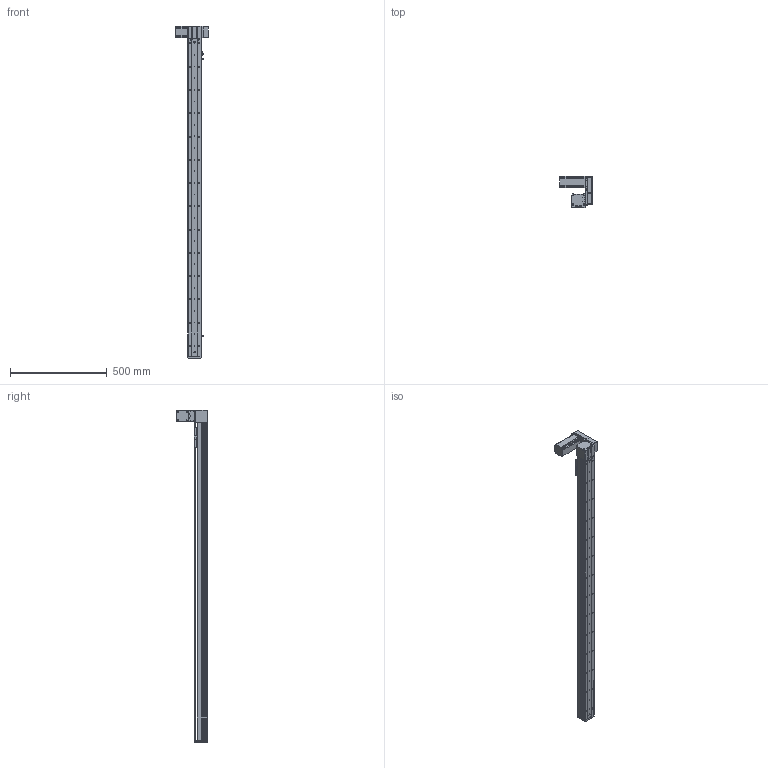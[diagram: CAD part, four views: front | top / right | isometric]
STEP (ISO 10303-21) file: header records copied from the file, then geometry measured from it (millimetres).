
FILE_DESCRIPTION (( 'STEP AP214' ), '1' );
FILE_NAME ('KSD68BS-S1450-MLU-CM.STEP', '2019-11-06T07:02:37', ( '微软用户' ), ( '微软中国' ), 'SwSTEP 2.0', 'SolidWorks 2014', '' );
FILE_SCHEMA (( 'AUTOMOTIVE_DESIGN' ));
Length unit declared in the file: millimetre
Products named in the file (11): 悵誘欶奻狟殏; 68宽马达安装板连板上折同步带; 68宽单导轨半封闭同步带主动轮座左; 68单导轨同步带半封闭端板; KSD68BS 1450俴最裔啣圉猾敕; 覜茼え68遵圉猾敕; KSD68BS半封闭同步带传动导轨座; U倰嫖萇EEㄜSX672; 台达ECMA－C20604AS伺服电机（400W); KSD68BS 1450俴最菁啣圉猾敕; KSD68BS-S1450-MLU-CM
Assembly tree (12 placements, depth 2):
  KSD68BS-S1450-MLU-CM
    KSD68BS 1450俴最菁啣圉猾敕
    台达ECMA－C20604AS伺服电机（400W)
    U倰嫖萇EEㄜSX672  x3
    KSD68BS半封闭同步带传动导轨座
    覜茼え68遵圉猾敕
    KSD68BS 1450俴最裔啣圉猾敕
    68单导轨同步带半封闭端板
    68宽单导轨半封闭同步带主动轮座左
    68宽马达安装板连板上折同步带
    悵誘欶奻狟殏
Bounding box: 167.2 x 159.5 x 1712 mm (x, y, z)
Volume: 2938450.6 mm3; surface area: 1079486.6 mm2
Topology: 13 solids, 13 shells, 1542 faces, 4498 edges, 2930 vertices
Faces by surface type: cylinder 804, plane 655, cone 83
Entity records: 59430 total; most frequent: CARTESIAN_POINT 11834, ORIENTED_EDGE 7748, DIRECTION 7528, EDGE_CURVE 3874, AXIS2_PLACEMENT_3D 2712, VERTEX_POINT 2554, VECTOR 2104, LINE 2104
